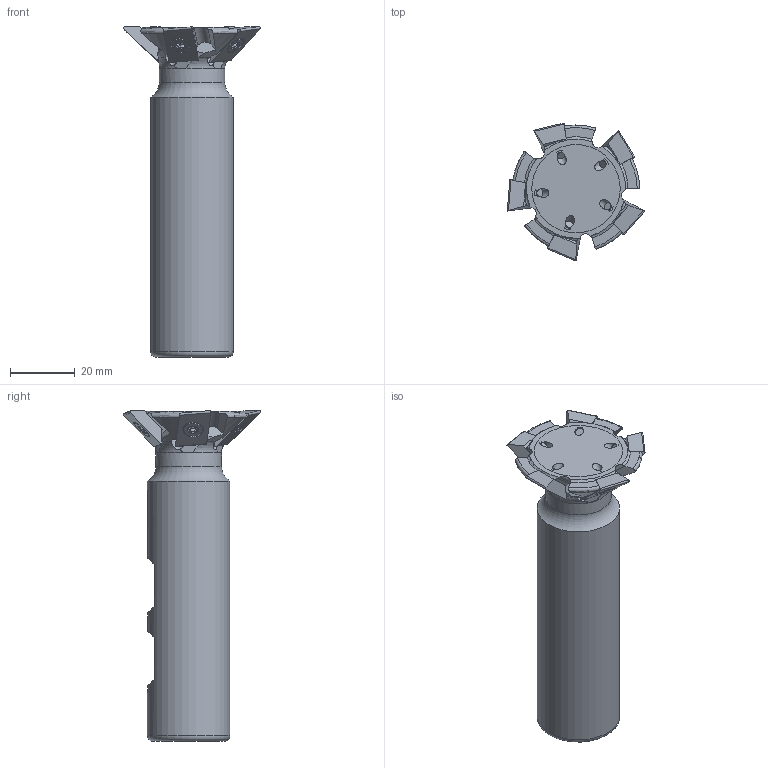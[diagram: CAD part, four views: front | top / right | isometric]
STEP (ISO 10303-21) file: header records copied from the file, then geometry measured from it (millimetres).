
FILE_DESCRIPTION (( 'STEP AP214' ), '1' );
FILE_NAME ('DC1750-I_WEBSITE.STEP', '2025-08-11T13:29:31', ( '' ), ( '' ), 'SwSTEP 2.0', 'SolidWorks 2025', '' );
FILE_SCHEMA (( 'AUTOMOTIVE_DESIGN' ));
Length unit declared in the file: inch
Products named in the file (4): D_DC1750-45B REV B_WEBSITE_FINISHED PART; D_DC1750-S REV B REMODEL_NO THREADS_WEBSITE; D_DC1750-B REV B_WEBSITE; DC1750-I_WEBSITE
Assembly tree (11 placements, depth 2):
  DC1750-I_WEBSITE
    D_DC1750-45B REV B_WEBSITE_FINISHED PART
    D_DC1750-B REV B_WEBSITE  x5
    D_DC1750-S REV B REMODEL_NO THREADS_WEBSITE  x5
Bounding box: 42.27 x 42.42 x 101.6 mm (x, y, z)
Volume: 50775.9 mm3; surface area: 12929 mm2
Topology: 11 solids, 11 shells, 369 faces, 924 edges, 555 vertices
Faces by surface type: cylinder 118, cone 115, plane 114, torus 17, bspline 5
Full cylindrical faces by diameter (mm): 2.705 x5, 3.505 x5, 4.445 x5, 5.715 x5, 6.502 x5, 20.193 x1, 25.392 x1, 27.201 x1
Entity records: 7030 total; most frequent: CARTESIAN_POINT 1884, ORIENTED_EDGE 882, DIRECTION 742, EDGE_CURVE 441, VERTEX_POINT 296, AXIS2_PLACEMENT_3D 281, EDGE_LOOP 207, FACE_OUTER_BOUND 188
